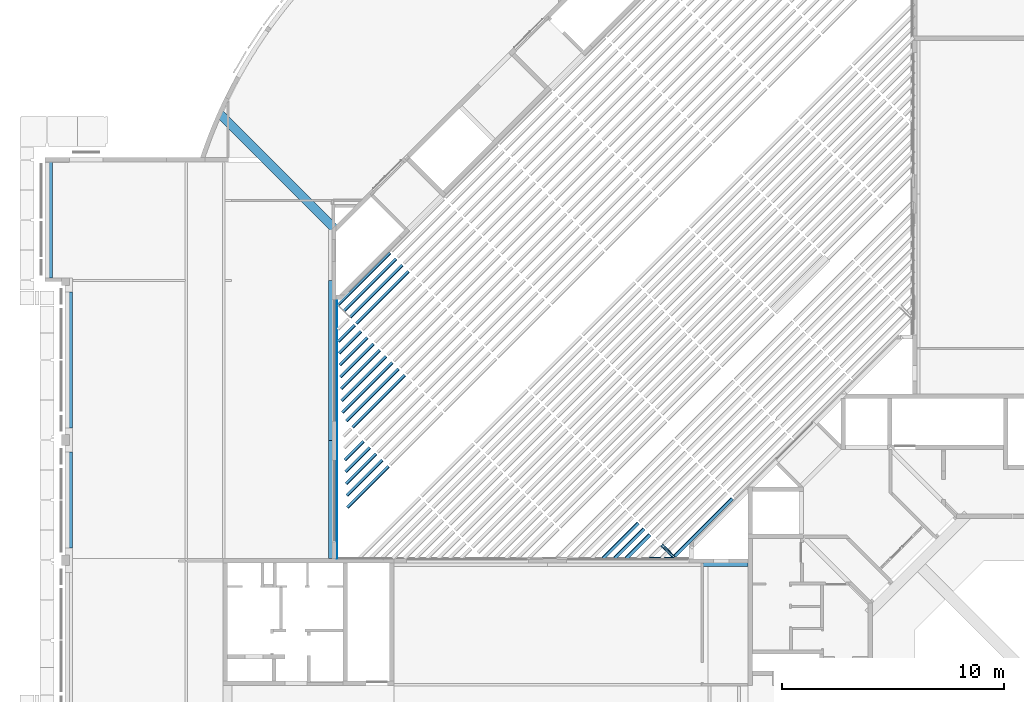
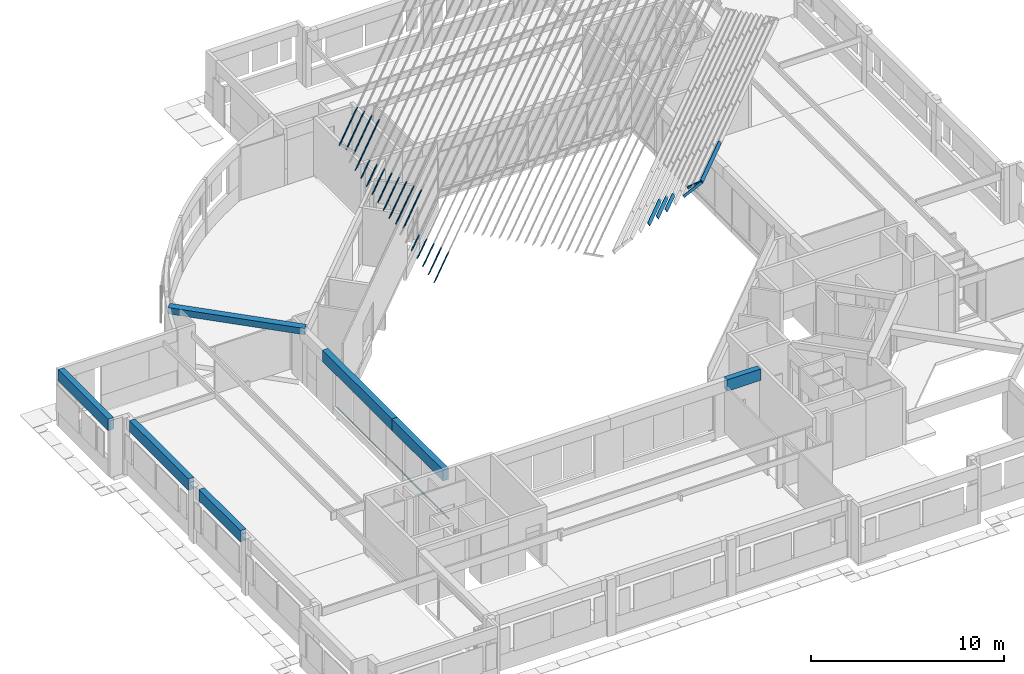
# One storey, part 3 of 37: 32 beams, 1 member.
"""IFC4X3_ADD2 building model written with IfcOpenShell, lengths in millimetres."""

from ifc_helpers import new_model, si_unit, direction, frame, frame_2d, origin_with_axes, origin_2d_with_axis, place, context, subcontext, project, spatial, rectangle, extrude, polygons, source, transform, mapped, material, type_object, type_shapes, element, save


model = new_model("IFC4X3_ADD2")

# Units and contexts
model_context = context("Model", 3, precision=1e-05, world=origin_with_axes(), true_north=direction((0.0, 1.0)))
body_context = subcontext(model_context, "Body", "Model", "MODEL_VIEW")
ifc_project = project(units=[si_unit("LENGTHUNIT", "METRE", prefix="MILLI"), si_unit("AREAUNIT", "SQUARE_METRE"), si_unit("VOLUMEUNIT", "CUBIC_METRE"), si_unit("PLANEANGLEUNIT", "RADIAN"), si_unit("TIMEUNIT", "SECOND"), si_unit("MASSUNIT", "GRAM")], contexts=[model_context])

# Site, building, storey
site_placement = place(None, origin_with_axes())
site = spatial("IfcSite", under=ifc_project, at=site_placement, Name="Site", CompositionType="ELEMENT")
building_placement = place(site_placement, origin_with_axes())
building = spatial("IfcBuilding", under=site, at=building_placement, Name="IFC Building Story")
storey_placement = place(building_placement, frame((0.0, 0.0, 3600.0), z_axis=(0.0, 0.0, 1.0), x_axis=(1.0, 0.0, 0.0)))
storey = spatial("IfcBuildingStorey", under=building, at=storey_placement, Name="010", Elevation=3600.0)

# Beams
ifc_material_1 = material(Name="BB_Beton_Bestaand")
beam_type_1 = type_object("IfcBeamType", Name="BB_XX_Betonbalk_ rechthoekig_ center-center_SFB_340 x 720 mm1", PredefinedType="NOTDEFINED")
shared_shape_1 = source(origin_with_axes(), body_context, "Body", "SweptSolid", [
    extrude(rectangle(XDim=5209.99999999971, YDim=340.0, at=origin_2d_with_axis()), frame((-1.450644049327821e-10, 0.0, -360.0), z_axis=(0.0, 0.0, 1.0), x_axis=(1.0, 0.0, 0.0)), (0.0, 0.0, 1.0), 720.0),
])
type_shapes(beam_type_1, [shared_shape_1])
beam_1_placement = place(storey_placement, frame((-51525.0, 27930.0, 3040.0), z_axis=(0.0, 0.0, 1.0), x_axis=(0.0, 1.0, 0.0)))
element("IfcBeam", 1, at=beam_1_placement, inside=storey, type_object=beam_type_1, material=ifc_material_1, Name="BB_XX_Betonbalk, rechthoekig, center-center_SFB:340 x 720 mm", ObjectType="340 x 720 mm", PredefinedType="BEAM", context=body_context, shape_type="MappedRepresentation", body=[
    mapped(shared_shape_1, transform((0.0, 0.0, 0.0))),
])
beam_type_2 = type_object("IfcBeamType", Name="BB_XX_Betonbalk_ rechthoekig_ center-center_SFB_340 x 720 mm33", PredefinedType="NOTDEFINED")
shared_shape_2 = source(origin_with_axes(), body_context, "Body", "SweptSolid", [
    extrude(rectangle(XDim=5299.99593411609, YDim=340.0, at=origin_2d_with_axis()), frame((-5.002220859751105e-12, 0.0, -360.0), z_axis=(0.0, 0.0, 1.0), x_axis=(1.0, 0.0, 0.0)), (0.0, 0.0, 1.0), 720.0),
])
type_shapes(beam_type_2, [shared_shape_2])
beam_2_placement = place(storey_placement, frame((-38775.0, 15350.0020329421, 3040.0), z_axis=(0.0, 0.0, 1.0), x_axis=(0.0, 1.0, 0.0)))
element("IfcBeam", 2, at=beam_2_placement, inside=storey, type_object=beam_type_2, material=ifc_material_1, Name="BB_XX_Betonbalk, rechthoekig, center-center_SFB:340 x 720 mm", ObjectType="340 x 720 mm", PredefinedType="BEAM", context=body_context, shape_type="MappedRepresentation", body=[
    mapped(shared_shape_2, transform((0.0, 0.0, 0.0))),
])
beam_type_3 = type_object("IfcBeamType", Name="BB_XX_Betonbalk_ rechthoekig_ center-center_SFB_340 x 720 mm35", PredefinedType="NOTDEFINED")
shared_shape_3 = source(origin_with_axes(), body_context, "Body", "SweptSolid", [
    extrude(rectangle(XDim=7200.0, YDim=340.0, at=origin_2d_with_axis()), frame((-5.002220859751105e-12, 0.0, -360.0), z_axis=(0.0, 0.0, 1.0), x_axis=(1.0, 0.0, 0.0)), (0.0, 0.0, 1.0), 720.0),
])
type_shapes(beam_type_3, [shared_shape_3])
beam_3_placement = place(storey_placement, frame((-38775.0, 21600.0, 3040.0), z_axis=(0.0, 0.0, 1.0), x_axis=(0.0, 1.0, 0.0)))
element("IfcBeam", 3, at=beam_3_placement, inside=storey, type_object=beam_type_3, material=ifc_material_1, Name="BB_XX_Betonbalk, rechthoekig, center-center_SFB:340 x 720 mm", ObjectType="340 x 720 mm", PredefinedType="BEAM", context=body_context, shape_type="MappedRepresentation", body=[
    mapped(shared_shape_3, transform((0.0, 0.0, 0.0))),
])
beam_type_4 = type_object("IfcBeamType", Name="BB_XX_Betonbalk_ rechthoekig_ center-center_SFB_340 x 720 mm105", PredefinedType="NOTDEFINED")
shared_shape_4 = source(origin_with_axes(), body_context, "Body", "SweptSolid", [
    extrude(rectangle(XDim=4309.99999999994, YDim=340.0, at=origin_2d_with_axis()), frame((-5.002220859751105e-12, 0.0, -360.0), z_axis=(0.0, 0.0, 1.0), x_axis=(1.0, 0.0, 0.0)), (0.0, 0.0, 1.0), 720.0),
])
type_shapes(beam_type_4, [shared_shape_4])
beam_4_placement = place(storey_placement, frame((-50625.0, 15330.0, 3040.0), z_axis=(0.0, 0.0, 1.0), x_axis=(0.0, 1.0, 0.0)))
element("IfcBeam", 4, at=beam_4_placement, inside=storey, type_object=beam_type_4, material=ifc_material_1, Name="BB_XX_Betonbalk, rechthoekig, center-center_SFB:340 x 720 mm", ObjectType="340 x 720 mm", PredefinedType="BEAM", context=body_context, shape_type="MappedRepresentation", body=[
    mapped(shared_shape_4, transform((0.0, 0.0, 0.0))),
])
beam_type_5 = type_object("IfcBeamType", Name="BB_XX_Betonbalk_ rechthoekig_ center-center_SFB_340 x 720 mm107", PredefinedType="NOTDEFINED")
shared_shape_5 = source(origin_with_axes(), body_context, "Body", "SweptSolid", [
    extrude(rectangle(XDim=6109.999999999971, YDim=340.0, at=frame_2d((0.0, 0.0), x_axis=(0.0, 1.0))), frame((-50624.99999999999, 21629.99999999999, 6280.0), z_axis=(0.0, 0.0, 1.0), x_axis=(1.0, 0.0, 0.0)), (0.0, 0.0, 1.0), 720.0),
])
type_shapes(beam_type_5, [shared_shape_5])
beam_5_placement = place(storey_placement, frame((0.0, 0.0, -3600.0), z_axis=(0.0, 0.0, 1.0), x_axis=(1.0, 0.0, 0.0)))
element("IfcBeam", 5, at=beam_5_placement, inside=storey, type_object=beam_type_5, material=ifc_material_1, Name="BB_XX_Betonbalk, rechthoekig, center-center_SFB:340 x 720 mm", ObjectType="340 x 720 mm", PredefinedType="BEAM", context=body_context, shape_type="MappedRepresentation", body=[
    mapped(shared_shape_5, transform((0.0, 0.0, 0.0))),
])
beam_type_6 = type_object("IfcBeamType", Name="BB_XX_Betonbalk_ rechthoekig_ center-center_SFB_340 x 720 mm141", PredefinedType="NOTDEFINED")
shared_shape_6 = source(origin_with_axes(), body_context, "Body", "SweptSolid", [
    extrude(rectangle(XDim=2020.00000000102, YDim=340.0, at=origin_2d_with_axis()), frame((5.099991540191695e-10, 0.0, -360.0), z_axis=(0.0, 0.0, 1.0), x_axis=(1.0, 0.0, 0.0)), (0.0, 0.0, 1.0), 720.0),
])
type_shapes(beam_type_6, [shared_shape_6])
beam_6_placement = place(storey_placement, frame((-21110.0, 12525.0, 3040.0), z_axis=(0.0, 0.0, 1.0), x_axis=(1.0, 0.0, 0.0)))
element("IfcBeam", 6, at=beam_6_placement, inside=storey, type_object=beam_type_6, material=ifc_material_1, Name="BB_XX_Betonbalk, rechthoekig, center-center_SFB:340 x 720 mm", ObjectType="340 x 720 mm", PredefinedType="BEAM", context=body_context, shape_type="MappedRepresentation", body=[
    mapped(shared_shape_6, transform((0.0, 0.0, 0.0))),
])
beam_type_7 = type_object("IfcBeamType", Name="BB_XX_Betonbalk_ rechthoekig_ center-center_SFB_400 x 400 mm1", PredefinedType="NOTDEFINED")
shared_shape_7 = source(origin_with_axes(), body_context, "Body", "SweptSolid", [
    extrude(rectangle(XDim=7345.0, YDim=400.0000000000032, at=frame_2d((0.0, 0.0), x_axis=(-0.7071067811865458, 0.7071067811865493))), frame((-41222.10957217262, 30082.08437404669, 6600.0), z_axis=(0.0, 0.0, 1.0), x_axis=(1.0, 0.0, 0.0)), (0.0, 0.0, 1.0), 400.0),
])
type_shapes(beam_type_7, [shared_shape_7])
beam_7_placement = place(storey_placement, frame((0.0, 0.0, -3600.0), z_axis=(0.0, 0.0, 1.0), x_axis=(1.0, 0.0, 0.0)))
element("IfcBeam", 7, at=beam_7_placement, inside=storey, type_object=beam_type_7, material=ifc_material_1, Name="BB_XX_Betonbalk, rechthoekig, center-center_SFB:400 x 400 mm", ObjectType="400 x 400 mm", PredefinedType="BEAM", context=body_context, shape_type="MappedRepresentation", body=[
    mapped(shared_shape_7, transform((0.0, 0.0, 0.0))),
])
ifc_material_2 = material(Name="GVH_i2_naaldhout_generiek")
beam_type_8 = type_object("IfcBeamType", Name="28_SF_hout_rechthoekig_40 x 230_59", PredefinedType="NOTDEFINED")
shared_shape_8 = source(origin_with_axes(), body_context, "Body", "SweptSolid", [
    extrude(rectangle(XDim=3317.28000002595, YDim=40.0000000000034, at=origin_2d_with_axis()), frame((1.388640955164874, 0.0, -115.0), z_axis=(0.0, 0.0, 1.0), x_axis=(1.0, 0.0, 0.0)), (0.0, 0.0, 1.0), 230.0000000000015),
])
type_shapes(beam_type_8, [shared_shape_8])
beam_8_placement = place(storey_placement, frame((-36520.8973154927, 24440.9629566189, 16384.8763130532), z_axis=(0.311937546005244, -0.311937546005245, 0.8974351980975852), x_axis=(-0.7071067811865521, -0.707106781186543, 0.0)))
element("IfcBeam", 8, at=beam_8_placement, inside=storey, type_object=beam_type_8, material=ifc_material_2, Name="28_SF_hout_rechthoekig:40 x 230", ObjectType="40 x 230", PredefinedType="BEAM", context=body_context, shape_type="MappedRepresentation", body=[
    mapped(shared_shape_8, transform((0.0, 0.0, 0.0))),
])
beam_type_9 = type_object("IfcBeamType", Name="28_SF_hout_rechthoekig_40 x 230_61", PredefinedType="NOTDEFINED")
shared_shape_9 = source(origin_with_axes(), body_context, "Body", "SweptSolid", [
    extrude(rectangle(XDim=3317.28000002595, YDim=40.0000000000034, at=origin_2d_with_axis()), frame((0.8870283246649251, 0.0, -115.0), z_axis=(0.0, 0.0, 1.0), x_axis=(1.0, 0.0, 0.0)), (0.0, 0.0, 1.0), 230.0000000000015),
])
type_shapes(beam_type_9, [shared_shape_9])
beam_9_placement = place(storey_placement, frame((-36802.245085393, 24721.6014613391, 16580.2158983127), z_axis=(0.311937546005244, -0.311937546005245, 0.8974351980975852), x_axis=(-0.7071067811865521, -0.707106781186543, 0.0)))
element("IfcBeam", 9, at=beam_9_placement, inside=storey, type_object=beam_type_9, material=ifc_material_2, Name="28_SF_hout_rechthoekig:40 x 230", ObjectType="40 x 230", PredefinedType="BEAM", context=body_context, shape_type="MappedRepresentation", body=[
    mapped(shared_shape_9, transform((0.0, 0.0, 0.0))),
])
beam_type_10 = type_object("IfcBeamType", Name="28_SF_hout_rechthoekig_40 x 230_63", PredefinedType="NOTDEFINED")
shared_shape_10 = source(origin_with_axes(), body_context, "Body", "SweptSolid", [
    extrude(rectangle(XDim=3317.28131310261, YDim=40.0000000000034, at=origin_2d_with_axis()), frame((3.498882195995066, 0.0, -115.0), z_axis=(0.0, 0.0, 1.0), x_axis=(1.0, 0.0, 0.0)), (0.0, 0.0, 1.0), 230.0000000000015),
])
type_shapes(beam_type_10, [shared_shape_10])
beam_10_placement = place(storey_placement, frame((-37081.391827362, 25004.4409939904, 16775.5554835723), z_axis=(0.311937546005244, -0.311937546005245, 0.8974351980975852), x_axis=(-0.7071067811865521, -0.707106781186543, 0.0)))
element("IfcBeam", 10, at=beam_10_placement, inside=storey, type_object=beam_type_10, material=ifc_material_2, Name="28_SF_hout_rechthoekig:40 x 230", ObjectType="40 x 230", PredefinedType="BEAM", context=body_context, shape_type="MappedRepresentation", body=[
    mapped(shared_shape_10, transform((0.0, 0.0, 0.0))),
])
beam_type_11 = type_object("IfcBeamType", Name="28_SF_hout_rechthoekig_40 x 230_235", PredefinedType="NOTDEFINED")
shared_shape_11 = source(origin_with_axes(), body_context, "Body", "SweptSolid", [
    extrude(rectangle(XDim=3317.28151428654, YDim=40.0000000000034, at=origin_2d_with_axis()), frame((0.8876170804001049, 0.0, -115.0), z_axis=(0.0, 0.0, 1.0), x_axis=(1.0, 0.0, 0.0)), (0.0, 0.0, 1.0), 229.9999999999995),
])
type_shapes(beam_type_11, [shared_shape_11])
beam_11_placement = place(storey_placement, frame((-37349.7628786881, 25269.1192546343, 16960.8369330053), z_axis=(0.311937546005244, -0.311937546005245, 0.8974351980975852), x_axis=(-0.7071067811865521, -0.707106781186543, 0.0)))
element("IfcBeam", 11, at=beam_11_placement, inside=storey, type_object=beam_type_11, material=ifc_material_2, Name="28_SF_hout_rechthoekig:40 x 230", ObjectType="40 x 230", PredefinedType="BEAM", context=body_context, shape_type="MappedRepresentation", body=[
    mapped(shared_shape_11, transform((0.0, 0.0, 0.0))),
])
beam_type_12 = type_object("IfcBeamType", Name="28_SF_hout_rechthoekig_40 x 230_271", PredefinedType="NOTDEFINED")
shared_shape_12 = source(origin_with_axes(), body_context, "Body", "SweptSolid", [
    extrude(rectangle(XDim=3317.26957972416, YDim=40.0000000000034, at=origin_2d_with_axis()), frame((0.8825958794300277, 0.0, -115.0), z_axis=(0.0, 0.0, 1.0), x_axis=(1.0, 0.0, 0.0)), (0.0, 0.0, 1.0), 230.0),
])
type_shapes(beam_type_12, [shared_shape_12])
beam_12_placement = place(storey_placement, frame((-36689.6887108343, 19776.2813643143, 14822.1596309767), z_axis=(0.311937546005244, -0.311937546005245, 0.8974351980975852), x_axis=(-0.7071067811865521, -0.707106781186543, 0.0)))
element("IfcBeam", 12, at=beam_12_placement, inside=storey, type_object=beam_type_12, material=ifc_material_2, Name="28_SF_hout_rechthoekig:40 x 230", ObjectType="40 x 230", PredefinedType="BEAM", context=body_context, shape_type="MappedRepresentation", body=[
    mapped(shared_shape_12, transform((0.0, 0.0, 0.0))),
])
beam_type_13 = type_object("IfcBeamType", Name="28_SF_hout_rechthoekig_40 x 230_273", PredefinedType="NOTDEFINED")
shared_shape_13 = source(origin_with_axes(), body_context, "Body", "SweptSolid", [
    extrude(rectangle(XDim=3317.26951960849, YDim=40.0000000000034, at=origin_2d_with_axis()), frame((0.8824794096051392, 0.0, -115.0), z_axis=(0.0, 0.0, 1.0), x_axis=(1.0, 0.0, 0.0)), (0.0, 0.0, 1.0), 230.0),
])
type_shapes(beam_type_13, [shared_shape_13])
beam_13_placement = place(storey_placement, frame((-36970.6818481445, 20057.2745016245, 15017.4992162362), z_axis=(0.311937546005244, -0.311937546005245, 0.8974351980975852), x_axis=(-0.7071067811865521, -0.707106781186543, 0.0)))
element("IfcBeam", 13, at=beam_13_placement, inside=storey, type_object=beam_type_13, material=ifc_material_2, Name="28_SF_hout_rechthoekig:40 x 230", ObjectType="40 x 230", PredefinedType="BEAM", context=body_context, shape_type="MappedRepresentation", body=[
    mapped(shared_shape_13, transform((0.0, 0.0, 0.0))),
])
beam_type_14 = type_object("IfcBeamType", Name="28_SF_hout_rechthoekig_40 x 230_275", PredefinedType="NOTDEFINED")
shared_shape_14 = source(origin_with_axes(), body_context, "Body", "SweptSolid", [
    extrude(rectangle(XDim=3181.72369084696, YDim=40.0000000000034, at=origin_2d_with_axis()), frame((-16.89052138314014, 0.0, -115.0), z_axis=(0.0, 0.0, 1.0), x_axis=(1.0, 0.0, 0.0)), (0.0, 0.0, 1.0), 230.0),
])
type_shapes(beam_type_14, [shared_shape_14])
beam_14_placement = place(storey_placement, frame((-37216.3196463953, 20373.622977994, 15212.8388014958), z_axis=(0.311937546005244, -0.311937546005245, 0.8974351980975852), x_axis=(-0.7071067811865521, -0.707106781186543, 0.0)))
element("IfcBeam", 14, at=beam_14_placement, inside=storey, type_object=beam_type_14, material=ifc_material_2, Name="28_SF_hout_rechthoekig:40 x 230", ObjectType="40 x 230", PredefinedType="BEAM", context=body_context, shape_type="MappedRepresentation", body=[
    mapped(shared_shape_14, transform((0.0, 0.0, 0.0))),
])
beam_type_15 = type_object("IfcBeamType", Name="28_SF_hout_rechthoekig_40 x 230_277", PredefinedType="NOTDEFINED")
shared_shape_15 = source(origin_with_axes(), body_context, "Body", "SweptSolid", [
    extrude(rectangle(XDim=2824.88809408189, YDim=40.0000000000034, at=origin_2d_with_axis()), frame((14.69159382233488, 0.0, -115.0), z_axis=(0.0, 0.0, 1.0), x_axis=(1.0, 0.0, 0.0)), (0.0, 0.0, 1.0), 229.9999999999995),
])
type_shapes(beam_type_15, [shared_shape_15])
beam_15_placement = place(storey_placement, frame((-37348.8203596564, 20803.1085393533, 15408.1783867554), z_axis=(0.311937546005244, -0.311937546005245, 0.8974351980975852), x_axis=(-0.7071067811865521, -0.707106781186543, 0.0)))
element("IfcBeam", 15, at=beam_15_placement, inside=storey, type_object=beam_type_15, material=ifc_material_2, Name="28_SF_hout_rechthoekig:40 x 230", ObjectType="40 x 230", PredefinedType="BEAM", context=body_context, shape_type="MappedRepresentation", body=[
    mapped(shared_shape_15, transform((0.0, 0.0, 0.0))),
])
beam_type_16 = type_object("IfcBeamType", Name="28_SF_hout_rechthoekig_40 x 230_279", PredefinedType="NOTDEFINED")
shared_shape_16 = source(origin_with_axes(), body_context, "Body", "SweptSolid", [
    extrude(rectangle(XDim=2468.46538736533, YDim=40.0000000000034, at=origin_2d_with_axis()), frame((16.48015405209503, 0.0, -115.0), z_axis=(0.0, 0.0, 1.0), x_axis=(1.0, 0.0, 0.0)), (0.0, 0.0, 1.0), 229.999999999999),
])
type_shapes(beam_type_16, [shared_shape_16])
beam_16_placement = place(storey_placement, frame((-37502.534276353, 21211.3808972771, 15603.5179720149), z_axis=(0.311937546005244, -0.311937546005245, 0.8974351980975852), x_axis=(-0.7071067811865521, -0.707106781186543, 0.0)))
element("IfcBeam", 16, at=beam_16_placement, inside=storey, type_object=beam_type_16, material=ifc_material_2, Name="28_SF_hout_rechthoekig:40 x 230", ObjectType="40 x 230", PredefinedType="BEAM", context=body_context, shape_type="MappedRepresentation", body=[
    mapped(shared_shape_16, transform((0.0, 0.0, 0.0))),
])
beam_type_17 = type_object("IfcBeamType", Name="28_SF_hout_rechthoekig_40 x 230_281", PredefinedType="NOTDEFINED")
shared_shape_17 = source(origin_with_axes(), body_context, "Body", "SweptSolid", [
    extrude(rectangle(XDim=2112.04268064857, YDim=40.0000000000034, at=origin_2d_with_axis()), frame((18.2687142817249, 0.0, -115.0), z_axis=(0.0, 0.0, 1.0), x_axis=(1.0, 0.0, 0.0)), (0.0, 0.0, 1.0), 229.999999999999),
])
type_shapes(beam_type_17, [shared_shape_17])
beam_17_placement = place(storey_placement, frame((-37656.2481930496, 21619.6532552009, 15798.8575572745), z_axis=(0.311937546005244, -0.311937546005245, 0.8974351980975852), x_axis=(-0.7071067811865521, -0.707106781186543, 0.0)))
element("IfcBeam", 17, at=beam_17_placement, inside=storey, type_object=beam_type_17, material=ifc_material_2, Name="28_SF_hout_rechthoekig:40 x 230", ObjectType="40 x 230", PredefinedType="BEAM", context=body_context, shape_type="MappedRepresentation", body=[
    mapped(shared_shape_17, transform((0.0, 0.0, 0.0))),
])
beam_type_18 = type_object("IfcBeamType", Name="28_SF_hout_rechthoekig_40 x 230_283", PredefinedType="NOTDEFINED")
shared_shape_18 = source(origin_with_axes(), body_context, "Body", "SweptSolid", [
    extrude(rectangle(XDim=1755.61997393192, YDim=40.0000000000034, at=origin_2d_with_axis()), frame((10.05727451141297, 0.0, -115.0), z_axis=(0.0, 0.0, 1.0), x_axis=(1.0, 0.0, 0.0)), (0.0, 0.0, 1.0), 230.0),
])
type_shapes(beam_type_18, [shared_shape_18])
beam_18_placement = place(storey_placement, frame((-37817.0331775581, 22020.8545453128, 15994.197142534), z_axis=(0.311937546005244, -0.311937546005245, 0.8974351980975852), x_axis=(-0.7071067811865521, -0.707106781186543, 0.0)))
element("IfcBeam", 18, at=beam_18_placement, inside=storey, type_object=beam_type_18, material=ifc_material_2, Name="28_SF_hout_rechthoekig:40 x 230", ObjectType="40 x 230", PredefinedType="BEAM", context=body_context, shape_type="MappedRepresentation", body=[
    mapped(shared_shape_18, transform((0.0, 0.0, 0.0))),
])
beam_type_19 = type_object("IfcBeamType", Name="28_SF_hout_rechthoekig_40 x 230_285", PredefinedType="NOTDEFINED")
shared_shape_19 = source(origin_with_axes(), body_context, "Body", "SweptSolid", [
    extrude(rectangle(XDim=1399.19726721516, YDim=40.0000000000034, at=origin_2d_with_axis()), frame((1.845834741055, 0.0, -115.0), z_axis=(0.0, 0.0, 1.0), x_axis=(1.0, 0.0, 0.0)), (0.0, 0.0, 1.0), 230.0),
])
type_shapes(beam_type_19, [shared_shape_19])
beam_19_placement = place(storey_placement, frame((-37977.8181620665, 22422.0558354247, 16189.5367277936), z_axis=(0.311937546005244, -0.311937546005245, 0.8974351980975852), x_axis=(-0.7071067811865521, -0.707106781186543, 0.0)))
element("IfcBeam", 19, at=beam_19_placement, inside=storey, type_object=beam_type_19, material=ifc_material_2, Name="28_SF_hout_rechthoekig:40 x 230", ObjectType="40 x 230", PredefinedType="BEAM", context=body_context, shape_type="MappedRepresentation", body=[
    mapped(shared_shape_19, transform((0.0, 0.0, 0.0))),
])
beam_type_20 = type_object("IfcBeamType", Name="28_SF_hout_rechthoekig_40 x 230_287", PredefinedType="NOTDEFINED")
shared_shape_20 = source(origin_with_axes(), body_context, "Body", "SweptSolid", [
    extrude(rectangle(XDim=1042.77456049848, YDim=40.0000000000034, at=origin_2d_with_axis()), frame((3.634394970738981, 0.0, -115.0), z_axis=(0.0, 0.0, 1.0), x_axis=(1.0, 0.0, 0.0)), (0.0, 0.0, 1.0), 230.0),
])
type_shapes(beam_type_20, [shared_shape_20])
beam_20_placement = place(storey_placement, frame((-38131.5320787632, 22830.3281933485, 16384.8763130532), z_axis=(0.311937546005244, -0.311937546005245, 0.8974351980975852), x_axis=(-0.7071067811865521, -0.707106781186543, 0.0)))
element("IfcBeam", 20, at=beam_20_placement, inside=storey, type_object=beam_type_20, material=ifc_material_2, Name="28_SF_hout_rechthoekig:40 x 230", ObjectType="40 x 230", PredefinedType="BEAM", context=body_context, shape_type="MappedRepresentation", body=[
    mapped(shared_shape_20, transform((0.0, 0.0, 0.0))),
])
beam_type_21 = type_object("IfcBeamType", Name="28_SF_hout_rechthoekig_40 x 230_291", PredefinedType="NOTDEFINED")
shared_shape_21 = source(origin_with_axes(), body_context, "Body", "SweptSolid", [
    extrude(rectangle(XDim=2615.42964892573, YDim=40.0000000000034, at=origin_2d_with_axis()), frame((-0.03702014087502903, 0.0, -115.0), z_axis=(0.0, 0.0, 1.0), x_axis=(1.0, 0.0, 0.0)), (0.0, 0.0, 1.0), 229.9999999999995),
])
type_shapes(beam_type_21, [shared_shape_21])
beam_21_placement = place(storey_placement, frame((-37172.6173811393, 15921.435046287, 13650.1221194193), z_axis=(0.311937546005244, -0.311937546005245, 0.8974351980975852), x_axis=(-0.7071067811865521, -0.707106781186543, 0.0)))
element("IfcBeam", 21, at=beam_21_placement, inside=storey, type_object=beam_type_21, material=ifc_material_2, Name="28_SF_hout_rechthoekig:40 x 230", ObjectType="40 x 230", PredefinedType="BEAM", context=body_context, shape_type="MappedRepresentation", body=[
    mapped(shared_shape_21, transform((0.0, 0.0, 0.0))),
])
beam_type_22 = type_object("IfcBeamType", Name="28_SF_hout_rechthoekig_40 x 230_293", PredefinedType="NOTDEFINED")
shared_shape_22 = source(origin_with_axes(), body_context, "Body", "SweptSolid", [
    extrude(rectangle(XDim=2259.00035406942, YDim=40.0000000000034, at=origin_2d_with_axis()), frame((11.74818590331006, 0.0, -115.0), z_axis=(0.0, 0.0, 1.0), x_axis=(1.0, 0.0, 0.0)), (0.0, 0.0, 1.0), 230.0),
])
type_shapes(beam_type_22, [shared_shape_22])
beam_22_placement = place(storey_placement, frame((-37319.260230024, 16336.7784720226, 13845.4617046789), z_axis=(0.311937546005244, -0.311937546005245, 0.8974351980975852), x_axis=(-0.7071067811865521, -0.707106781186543, 0.0)))
element("IfcBeam", 22, at=beam_22_placement, inside=storey, type_object=beam_type_22, material=ifc_material_2, Name="28_SF_hout_rechthoekig:40 x 230", ObjectType="40 x 230", PredefinedType="BEAM", context=body_context, shape_type="MappedRepresentation", body=[
    mapped(shared_shape_22, transform((0.0, 0.0, 0.0))),
])
beam_type_23 = type_object("IfcBeamType", Name="28_SF_hout_rechthoekig_40 x 230_295", PredefinedType="NOTDEFINED")
shared_shape_23 = source(origin_with_axes(), body_context, "Body", "SweptSolid", [
    extrude(rectangle(XDim=1902.57762663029, YDim=40.0000000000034, at=origin_2d_with_axis()), frame((3.53667565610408, 0.0, -115.0), z_axis=(0.0, 0.0, 1.0), x_axis=(1.0, 0.0, 0.0)), (0.0, 0.0, 1.0), 230.0),
])
type_shapes(beam_type_23, [shared_shape_23])
beam_23_placement = place(storey_placement, frame((-37480.0452145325, 16737.9797621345, 14040.8012899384), z_axis=(0.311937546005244, -0.311937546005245, 0.8974351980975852), x_axis=(-0.7071067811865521, -0.707106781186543, 0.0)))
element("IfcBeam", 23, at=beam_23_placement, inside=storey, type_object=beam_type_23, material=ifc_material_2, Name="28_SF_hout_rechthoekig:40 x 230", ObjectType="40 x 230", PredefinedType="BEAM", context=body_context, shape_type="MappedRepresentation", body=[
    mapped(shared_shape_23, transform((0.0, 0.0, 0.0))),
])
beam_type_24 = type_object("IfcBeamType", Name="28_SF_hout_rechthoekig_40 x 230_297", PredefinedType="NOTDEFINED")
shared_shape_24 = source(origin_with_axes(), body_context, "Body", "SweptSolid", [
    extrude(rectangle(XDim=1546.1548992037, YDim=40.0000000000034, at=origin_2d_with_axis()), frame((5.325165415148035, 0.0, -115.0), z_axis=(0.0, 0.0, 1.0), x_axis=(1.0, 0.0, 0.0)), (0.0, 0.0, 1.0), 229.9999999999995),
])
type_shapes(beam_type_24, [shared_shape_24])
beam_24_placement = place(storey_placement, frame((-37633.7591312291, 17146.2521200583, 14236.140875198), z_axis=(0.311937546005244, -0.311937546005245, 0.8974351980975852), x_axis=(-0.7071067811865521, -0.707106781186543, 0.0)))
element("IfcBeam", 24, at=beam_24_placement, inside=storey, type_object=beam_type_24, material=ifc_material_2, Name="28_SF_hout_rechthoekig:40 x 230", ObjectType="40 x 230", PredefinedType="BEAM", context=body_context, shape_type="MappedRepresentation", body=[
    mapped(shared_shape_24, transform((0.0, 0.0, 0.0))),
])
beam_type_25 = type_object("IfcBeamType", Name="28_SF_hout_rechthoekig_40 x 230_299", PredefinedType="NOTDEFINED")
shared_shape_25 = source(origin_with_axes(), body_context, "Body", "SweptSolid", [
    extrude(rectangle(XDim=1189.73212635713, YDim=40.0000000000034, at=origin_2d_with_axis()), frame((-2.886367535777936, 0.0, -115.0), z_axis=(0.0, 0.0, 1.0), x_axis=(1.0, 0.0, 0.0)), (0.0, 0.0, 1.0), 230.0),
])
type_shapes(beam_type_25, [shared_shape_25])
beam_25_placement = place(storey_placement, frame((-37794.5441157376, 17547.4534101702, 14431.4804604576), z_axis=(0.311937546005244, -0.311937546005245, 0.8974351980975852), x_axis=(-0.7071067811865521, -0.707106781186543, 0.0)))
element("IfcBeam", 25, at=beam_25_placement, inside=storey, type_object=beam_type_25, material=ifc_material_2, Name="28_SF_hout_rechthoekig:40 x 230", ObjectType="40 x 230", PredefinedType="BEAM", context=body_context, shape_type="MappedRepresentation", body=[
    mapped(shared_shape_25, transform((0.0, 0.0, 0.0))),
])
beam_type_26 = type_object("IfcBeamType", Name="28_SF_hout_rechthoekig_40 x 230_619", PredefinedType="NOTDEFINED")
shared_shape_26 = source(origin_with_axes(), body_context, "Body", "SweptSolid", [
    extrude(rectangle(XDim=3690.1382913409, YDim=40.0000000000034, at=origin_2d_with_axis()), frame((130.6995817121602, 0.0, -115.0), z_axis=(0.0, 0.0, 1.0), x_axis=(1.0, 0.0, 0.0)), (0.0, 0.0, 1.0), 230.0),
])
type_shapes(beam_type_26, [shared_shape_26])
beam_26_placement = place(storey_placement, frame((-22192.4288555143, 14009.9054738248, 16145.5295493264), z_axis=(-0.4034072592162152, 0.4034072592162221, 0.8212948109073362), x_axis=(0.7071067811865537, 0.7071067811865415, 0.0)))
element("IfcBeam", 26, at=beam_26_placement, inside=storey, type_object=beam_type_26, material=ifc_material_2, Name="28_SF_hout_rechthoekig:40 x 230", ObjectType="40 x 230", PredefinedType="BEAM", context=body_context, shape_type="MappedRepresentation", body=[
    mapped(shared_shape_26, transform((0.0, 0.0, 0.0))),
])
beam_type_27 = type_object("IfcBeamType", Name="28_SF_hout_rechthoekig_40 x 230_695", PredefinedType="NOTDEFINED")
shared_shape_27 = source(origin_with_axes(), body_context, "Body", "SweptSolid", [
    extrude(rectangle(XDim=2246.90293844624, YDim=40.0000000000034, at=origin_2d_with_axis()), frame((825.0427420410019, 0.0, -115.0), z_axis=(0.0, 0.0, 1.0), x_axis=(1.0, 0.0, 0.0)), (0.0, 0.0, 1.0), 230.0),
])
type_shapes(beam_type_27, [shared_shape_27])
beam_27_placement = place(storey_placement, frame((-26403.5539961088, 12927.8243177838, 14608.5917274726), z_axis=(-0.4034072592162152, 0.4034072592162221, 0.8212948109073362), x_axis=(0.7071067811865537, 0.7071067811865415, 0.0)))
element("IfcBeam", 27, at=beam_27_placement, inside=storey, type_object=beam_type_27, material=ifc_material_2, Name="28_SF_hout_rechthoekig:40 x 230", ObjectType="40 x 230", PredefinedType="BEAM", context=body_context, shape_type="MappedRepresentation", body=[
    mapped(shared_shape_27, transform((0.0, 0.0, 0.0))),
])
beam_type_28 = type_object("IfcBeamType", Name="28_SF_hout_rechthoekig_40 x 230_697", PredefinedType="NOTDEFINED")
shared_shape_28 = source(origin_with_axes(), body_context, "Body", "SweptSolid", [
    extrude(rectangle(XDim=1878.14419570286, YDim=40.0000000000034, at=origin_2d_with_axis()), frame((1009.421543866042, 0.0, -115.0), z_axis=(0.0, 0.0, 1.0), x_axis=(1.0, 0.0, 0.0)), (0.0, 0.0, 1.0), 230.0),
])
type_shapes(beam_type_28, [shared_shape_28])
beam_28_placement = place(storey_placement, frame((-26142.8003307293, 12667.0706524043, 14864.7480311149), z_axis=(-0.4034072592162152, 0.4034072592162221, 0.8212948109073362), x_axis=(0.7071067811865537, 0.7071067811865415, 0.0)))
element("IfcBeam", 28, at=beam_28_placement, inside=storey, type_object=beam_type_28, material=ifc_material_2, Name="28_SF_hout_rechthoekig:40 x 230", ObjectType="40 x 230", PredefinedType="BEAM", context=body_context, shape_type="MappedRepresentation", body=[
    mapped(shared_shape_28, transform((0.0, 0.0, 0.0))),
])
beam_type_29 = type_object("IfcBeamType", Name="28_SF_hout_rechthoekig_40 x 230_699", PredefinedType="NOTDEFINED")
shared_shape_29 = source(origin_with_axes(), body_context, "Body", "SweptSolid", [
    extrude(rectangle(XDim=1509.38566997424, YDim=40.0000000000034, at=origin_2d_with_axis()), frame((1193.800237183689, 0.0, -115.0), z_axis=(0.0, 0.0, 1.0), x_axis=(1.0, 0.0, 0.0)), (0.0, 0.0, 1.0), 230.0),
])
type_shapes(beam_type_29, [shared_shape_29])
beam_29_placement = place(storey_placement, frame((-25882.0466653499, 12406.3169870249, 15120.9043347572), z_axis=(-0.4034072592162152, 0.4034072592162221, 0.8212948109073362), x_axis=(0.7071067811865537, 0.7071067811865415, 0.0)))
element("IfcBeam", 29, at=beam_29_placement, inside=storey, type_object=beam_type_29, material=ifc_material_2, Name="28_SF_hout_rechthoekig:40 x 230", ObjectType="40 x 230", PredefinedType="BEAM", context=body_context, shape_type="MappedRepresentation", body=[
    mapped(shared_shape_29, transform((0.0, 0.0, 0.0))),
])
beam_type_30 = type_object("IfcBeamType", Name="28_SF_hout_rechthoekig_40 x 150", PredefinedType="NOTDEFINED")
shared_shape_30 = source(origin_with_axes(), body_context, "Body", "SweptSolid", [
    extrude(rectangle(XDim=1238.99940657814, YDim=40.0000000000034, at=origin_2d_with_axis()), frame((1383.795310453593, 0.0, -75.0), z_axis=(0.0, 0.0, 1.0), x_axis=(1.0, 0.0, 0.0)), (0.0, 0.0, 1.0), 150.0),
])
type_shapes(beam_type_30, [shared_shape_30])
beam_30_placement = place(storey_placement, frame((-25188.8779725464, 12732.8748550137, 15294.8899318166), z_axis=(-0.4034072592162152, 0.4034072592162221, 0.8212948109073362), x_axis=(0.8963188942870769, -0.006325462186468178, 0.4433648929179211)))
element("IfcBeam", 30, at=beam_30_placement, inside=storey, type_object=beam_type_30, material=ifc_material_2, Name="28_SF_hout_rechthoekig:40 x 150", ObjectType="40 x 150", PredefinedType="BEAM", context=body_context, shape_type="MappedRepresentation", body=[
    mapped(shared_shape_30, transform((0.0, 0.0, 0.0))),
])
beam_type_31 = type_object("IfcBeamType", Name="28_SF_hout_rechthoekig_40 x 120", PredefinedType="NOTDEFINED")
shared_shape_31 = source(origin_with_axes(), body_context, "Body", "SweptSolid", [
    extrude(rectangle(XDim=964.751748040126, YDim=40.0000000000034, at=origin_2d_with_axis()), frame((81.48059090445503, 0.0, -60.0), z_axis=(0.0, 0.0, 1.0), x_axis=(1.0, 0.0, 0.0)), (0.0, 0.0, 1.0), 120.0),
])
type_shapes(beam_type_31, [shared_shape_31])
beam_31_placement = place(storey_placement, frame((-23744.0146521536, 13023.6689335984, 15886.1026161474), z_axis=(-0.4034072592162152, 0.4034072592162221, 0.8212948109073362), x_axis=(0.5881638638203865, -0.5732578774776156, 0.5704723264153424)))
element("IfcBeam", 31, at=beam_31_placement, inside=storey, type_object=beam_type_31, material=ifc_material_2, Name="28_SF_hout_rechthoekig:40 x 120", ObjectType="40 x 120", PredefinedType="BEAM", context=body_context, shape_type="MappedRepresentation", body=[
    mapped(shared_shape_31, transform((0.0, 0.0, 0.0))),
])
beam_type_32 = type_object("IfcBeamType", Name="28_SF_hout_rechthoekig_40 x 120_3", PredefinedType="NOTDEFINED")
shared_shape_32 = source(origin_with_axes(), body_context, "Body", "SweptSolid", [
    extrude(rectangle(XDim=856.0683324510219, YDim=40.0000000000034, at=origin_2d_with_axis()), frame((110.29750461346, 0.0, -60.0), z_axis=(0.0, 0.0, 1.0), x_axis=(1.0, 0.0, 0.0)), (0.0, 0.0, 1.0), 120.0000000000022),
])
type_shapes(beam_type_32, [shared_shape_32])
beam_32_placement = place(storey_placement, frame((-23734.0254963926, 13131.4403661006, 15838.0734800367), z_axis=(-0.4034072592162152, 0.4034072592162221, 0.8212948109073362), x_axis=(0.5807431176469, -0.5807431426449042, 0.5705040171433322)))
element("IfcBeam", 32, at=beam_32_placement, inside=storey, type_object=beam_type_32, material=ifc_material_2, Name="28_SF_hout_rechthoekig:40 x 120", ObjectType="40 x 120", PredefinedType="BEAM", context=body_context, shape_type="MappedRepresentation", body=[
    mapped(shared_shape_32, transform((0.0, 0.0, 0.0))),
])

# Member
ifc_material_3 = material(Name="BB_Metaal_Aluminium_Buitenschrijnwerk")
member_type = type_object("IfcMemberType", Name="BB_10.12.90_Verankeringsrail_GLI_XX_H 50mm x B 30mm5", PredefinedType="NOTDEFINED")
shared_shape_33 = source(origin_with_axes(), body_context, "Body", "Tessellation", [
    polygons([(6.01780847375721e-12, 29.9999999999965, -1.86117787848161e-12), (6.29416518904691e-12, -8.42605984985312e-12, -1.86399784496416e-12), (11629.9959340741, -8.46553938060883e-12, -1.86117787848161e-12), (11599.9959340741, 29.9999999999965, -1.86117787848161e-12), (6.29416518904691e-12, -8.42605984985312e-12, -50.0000000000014), (11629.9959340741, -8.46553938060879e-12, -50.0000000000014), (6.29416518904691e-12, 29.9999999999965, -50.0000000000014), (11599.9959340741, 29.9999999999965, -50.0000000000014)], [[[1, 2, 3, 4]], [[2, 5, 6, 3]], [[5, 7, 8, 6]], [[7, 1, 4, 8]], [[2, 1, 7, 5]], [[4, 3, 6, 8]]]),
])
type_shapes(member_type, [shared_shape_33])
member_placement = place(storey_placement, frame((-38590.0031355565, 24325.0, 196.0), z_axis=(0.0, 0.0, 1.0), x_axis=(0.0, -1.0, 0.0)))
element("IfcMember", 33, at=member_placement, inside=storey, type_object=member_type, material=ifc_material_3, Name="BB_10.12.90_Verankeringsrail_GLI:XX_H 50mm x B 30mm", ObjectType="BB_10.12.90_Verankeringsrail_GLI:XX_H 50mm x B 30mm", PredefinedType="USERDEFINED", context=body_context, shape_type="MappedRepresentation", body=[
    mapped(shared_shape_33, transform((0.0, 0.0, 0.0))),
])

save(model, "model.ifc")
